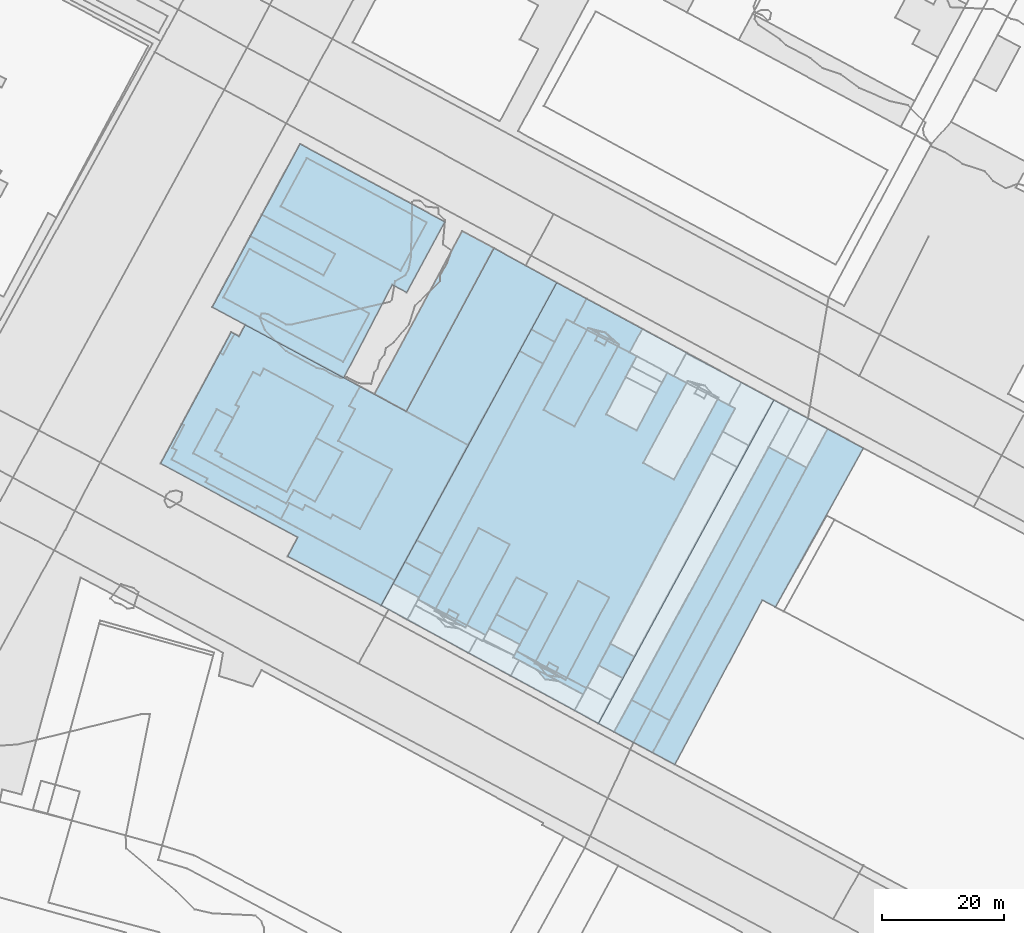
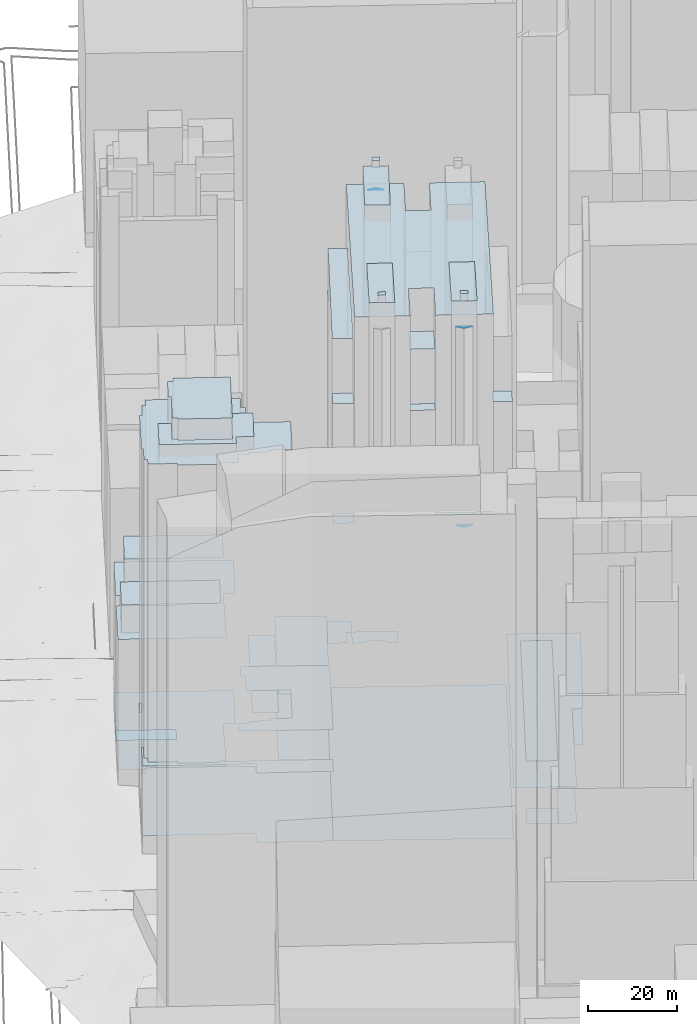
# Not in any storey, part 34 of 76: 39 roofs.
"""IFC2X3 model written with IfcOpenShell, lengths in metres."""

from ifc_helpers import new_model, si_unit, frame, origin_with_axes, place, context, subcontext, project, faceted_brep, element, save


model = new_model("IFC2X3")

# Units and contexts
model_context = context("Model", 3, precision=1e-05, world=origin_with_axes())
body_context = subcontext(model_context, "Body", "Model", "MODEL_VIEW")
ifc_project = project(units=[si_unit("AREAUNIT", "SQUARE_METRE"), si_unit("LENGTHUNIT", "METRE")], contexts=[model_context])

# Roofs
roof_1_placement = place(None, frame((117.977917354, 107.1295738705, 28.6103156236), z_axis=(0.0, 0.0, 1.0), x_axis=(1.0, 0.0, 0.0)))
element("IfcRoof", 1, at=roof_1_placement, Name="Toiture 0", ShapeType="NOTDEFINED", context=body_context, shape_type="Brep", body=[
    faceted_brep([(2.9022495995, 5.2295679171, 2.0), (0.0, 0.0, 2.0), (6.3201951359, -3.4126857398, 2.0), (9.1372634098, 1.8825086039, 2.0)], [[[0, 1, 2]], [[2, 3, 0]]]),
])
roof_2_placement = place(None, frame((106.7237532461, 117.4349641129, 171.8733820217), z_axis=(0.0, 0.0, 1.0), x_axis=(1.0, 0.0, 0.0)))
element("IfcRoof", 2, at=roof_2_placement, Name="Toiture 0", ShapeType="NOTDEFINED", context=body_context, shape_type="Brep", body=[
    faceted_brep([(0.5952053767, 1.0838316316, 2.0), (0.0, 0.0, 2.0), (1.5373911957, -0.8148118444, 2.0), (2.1242849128, 0.2578211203, 2.0)], [[[0, 1, 2]], [[2, 3, 0]]]),
])
roof_3_placement = place(None, frame((105.7639228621, 117.9456215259, 113.8537947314), z_axis=(0.0, 0.0, 1.0), x_axis=(1.0, 0.0, 0.0)))
element("IfcRoof", 3, at=roof_3_placement, Name="Toiture 0", ShapeType="NOTDEFINED", context=body_context, shape_type="Brep", body=[
    faceted_brep([(2.4972215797, -1.3254692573, 51.0), (0.0, 0.0, 51.0), (1.3516415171, -1.5386158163, 51.0), (3.4401714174, -1.8363224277, 51.0)], [[[0, 1, 2]], [[2, 3, 0]]]),
])
roof_4_placement = place(None, frame((101.4674692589, 119.3723193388, 20.7697572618), z_axis=(0.0, 0.0, 1.0), x_axis=(1.0, 0.0, 0.0)))
element("IfcRoof", 4, at=roof_4_placement, Name="Toiture 0", ShapeType="NOTDEFINED", context=body_context, shape_type="Brep", body=[
    faceted_brep([(0.5287138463, 0.9942409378, 93.0), (0.0, 0.0, 93.0), (11.4839478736, -6.1060781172, 93.0), (12.0459066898, -5.067041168, 93.0), (8.7673912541, -3.3398654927, 93.0), (8.5775159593, -3.7084452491, 93.0)], [[[0, 1, 2]], [[2, 3, 4]], [[5, 0, 2]], [[2, 4, 5]]]),
])
roof_5_placement = place(None, frame((105.4087196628, 117.2753608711, 40.8364053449), z_axis=(0.0, 0.0, 1.0), x_axis=(1.0, 0.0, 0.0)))
element("IfcRoof", 5, at=roof_5_placement, Name="Toiture 0", ShapeType="NOTDEFINED", context=body_context, shape_type="Brep", body=[
    faceted_brep([(3.4400426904, -1.825221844, 70.0), (0.0, 0.0, 70.0), (1.3598241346, -1.5163163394, 70.0)], [[[0, 1, 2]]]),
])
roof_6_placement = place(None, frame((104.948482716, 118.3802403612, 20.8364840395), z_axis=(0.0, 0.0, 1.0), x_axis=(1.0, 0.0, 0.0)))
element("IfcRoof", 6, at=roof_6_placement, Name="Toiture 0", ShapeType="NOTDEFINED", context=body_context, shape_type="Brep", body=[
    faceted_brep([(7.1619736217, 13.5058093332, 151.0), (0.0, 0.0, 151.0), (5.0965025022, -2.7163662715, 151.0), (12.2665233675, 10.8228483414, 151.0)], [[[0, 1, 2]], [[2, 3, 0]]]),
])
roof_7_placement = place(None, frame((115.4875749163, 118.0363623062, 20.7911243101), z_axis=(0.0, 0.0, 1.0), x_axis=(1.0, 0.0, 0.0)))
element("IfcRoof", 7, at=roof_7_placement, Name="Toiture 0", ShapeType="NOTDEFINED", context=body_context, shape_type="Brep", body=[
    faceted_brep([(1.8915978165, 3.5746936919, 120.0), (0.0, 0.0, 120.0), (3.8991819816, -2.1085420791, 120.0), (5.8246692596, 1.4554440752, 120.0)], [[[0, 1, 2]], [[2, 3, 0]]]),
])
roof_8_placement = place(None, frame((124.2981124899, 103.7168881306, 20.5602683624), z_axis=(0.0, 0.0, 1.0), x_axis=(1.0, 0.0, 0.0)))
element("IfcRoof", 8, at=roof_8_placement, Name="Toiture 0", ShapeType="NOTDEFINED", context=body_context, shape_type="Brep", body=[
    faceted_brep([(28.6922531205, 53.0912869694, 10.0), (0.0, 0.0, 10.0), (3.6522260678, -1.9226684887, 10.0), (18.0018064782, 25.0559943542, 10.0), (20.1510385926, 23.8930274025, 10.0), (34.5701681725, 49.9621498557, 10.0)], [[[0, 1, 2]], [[3, 4, 5]], [[0, 2, 3]], [[3, 5, 0]]]),
])
roof_9_placement = place(None, frame((115.4207049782, 108.532058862, 30.5602683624), z_axis=(0.0, 0.0, 1.0), x_axis=(1.0, 0.0, 0.0)))
element("IfcRoof", 9, at=roof_9_placement, Name="Toiture 0", ShapeType="NOTDEFINED", context=body_context, shape_type="Brep", body=[
    faceted_brep([(28.7687753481, 53.0477319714, 10.0), (0.0, 0.0, 10.0), (12.5296335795, -6.7378392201, 10.0), (26.8792139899, 20.2408236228, 10.0), (29.0284461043, 19.0778566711, 10.0), (43.4475756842, 45.1469791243, 10.0)], [[[0, 1, 2]], [[3, 4, 5]], [[0, 2, 3]], [[3, 5, 0]]]),
])
roof_10_placement = place(None, frame((120.8801669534, 112.3591417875, 40.6481645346), z_axis=(0.0, 0.0, 1.0), x_axis=(1.0, 0.0, 0.0)))
element("IfcRoof", 10, at=roof_10_placement, Name="Toiture 0", ShapeType="NOTDEFINED", context=body_context, shape_type="Brep", body=[
    faceted_brep([(22.4624654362, 41.461436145, 3.0), (0.0, 0.0, 3.0), (6.2350138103, -3.3470593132, 3.0), (28.6975847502, 38.1032951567, 3.0)], [[[0, 1, 2]], [[2, 3, 0]]]),
])
roof_11_placement = place(None, frame((98.7355611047, 126.3683150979, 140.9622219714), z_axis=(0.0, 0.0, 1.0), x_axis=(1.0, 0.0, 0.0)))
element("IfcRoof", 11, at=roof_11_placement, Name="Toiture 0", ShapeType="NOTDEFINED", context=body_context, shape_type="Brep", body=[
    faceted_brep([(3.2464387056, 6.1217379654, 15.0), (0.0, 0.0, 15.0), (5.0366380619, -2.6504521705, 15.0), (8.2830739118, 3.4712880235, 15.0)], [[[0, 1, 2]], [[2, 3, 0]]]),
])
roof_12_placement = place(None, frame((85.8586663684, 128.8500079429, 20.7906594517), z_axis=(0.0, 0.0, 1.0), x_axis=(1.0, 0.0, 0.0)))
element("IfcRoof", 12, at=roof_12_placement, Name="Toiture 0", ShapeType="NOTDEFINED", context=body_context, shape_type="Brep", body=[
    faceted_brep([(24.3521878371, 45.9352801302, 147.0), (0.0, 0.0, 147.0), (11.1010060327, -5.844095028, 147.0), (21.1599686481, 0.9895951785, 147.0), (16.1375167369, -8.4834476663, 147.0), (27.6547095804, -14.544729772, 147.0), (51.973663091, 31.3347461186, 147.0), (40.8642373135, 37.1786817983, 147.0), (30.8135250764, 30.3672629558, 147.0), (35.8607355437, 39.8850142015, 147.0), (16.1233334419, 3.6400451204, 147.0), (35.8417076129, 27.7167250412, 147.0)], [[[0, 1, 2]], [[3, 4, 5]], [[5, 6, 7]], [[8, 9, 0]], [[0, 2, 10]], [[5, 7, 11]], [[8, 0, 10]], [[3, 5, 11]], [[11, 8, 10]], [[10, 3, 11]]]),
])
roof_13_placement = place(None, frame((79.7834254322, 127.8912834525, 20.6975796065), z_axis=(0.0, 0.0, 1.0), x_axis=(1.0, 0.0, 0.0)))
element("IfcRoof", 13, at=roof_13_placement, Name="Toiture 0", ShapeType="NOTDEFINED", context=body_context, shape_type="Brep", body=[
    faceted_brep([(28.8041259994, 52.9258761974, 6.0), (0.0, 0.0, 6.0), (35.637279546, -19.3592245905, 6.0), (64.4060548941, 33.6885073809, 6.0)], [[[0, 1, 2]], [[2, 3, 0]]]),
])
roof_14_placement = place(None, frame((106.4243167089, 159.930902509, 21.4761548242), z_axis=(0.0, 0.0, 1.0), x_axis=(1.0, 0.0, 0.0)))
element("IfcRoof", 14, at=roof_14_placement, Name="Toiture 0", ShapeType="NOTDEFINED", context=body_context, shape_type="Brep", body=[
    faceted_brep([(7.2976187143, 13.4518772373, 151.0), (0.0, 0.0, 151.0), (5.0797232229, -2.7276618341, 151.0), (12.3774646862, 10.7131197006, 151.0)], [[[0, 1, 2]], [[2, 3, 0]]]),
])
roof_15_placement = place(None, frame((102.4881306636, 169.5885518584, 21.7443464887), z_axis=(0.0, 0.0, 1.0), x_axis=(1.0, 0.0, 0.0)))
element("IfcRoof", 15, at=roof_15_placement, Name="Toiture 0", ShapeType="NOTDEFINED", context=body_context, shape_type="Brep", body=[
    faceted_brep([(1.9256092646, 3.5528813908, 120.0), (0.0, 0.0, 120.0), (3.865132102, -2.0867392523, 120.0), (5.7567207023, 1.4879525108, 120.0)], [[[0, 1, 2]], [[2, 3, 0]]]),
])
roof_16_placement = place(None, frame((114.5459395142, 172.9371592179, 41.8919622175), z_axis=(0.0, 0.0, 1.0), x_axis=(1.0, 0.0, 0.0)))
element("IfcRoof", 16, at=roof_16_placement, Name="Toiture 0", ShapeType="NOTDEFINED", context=body_context, shape_type="Brep", body=[
    faceted_brep([(2.0464414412, -0.3092952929, 124.0), (0.0, 0.0, 124.0), (2.4804532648, -1.3367629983, 124.0), (3.4318372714, -1.8475169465, 124.0)], [[[0, 1, 2]], [[2, 3, 0]]]),
])
roof_17_placement = place(None, frame((114.9105640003, 171.3426705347, 172.8731858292), z_axis=(0.0, 0.0, 1.0), x_axis=(1.0, 0.0, 0.0)))
element("IfcRoof", 17, at=roof_17_placement, Name="Toiture 0", ShapeType="NOTDEFINED", context=body_context, shape_type="Brep", body=[
    faceted_brep([(0.5867591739, 1.0837344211, 2.0), (0.0, 0.0, 2.0), (1.529069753, -0.8260088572, 2.0), (2.1158287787, 0.2577256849, 2.0)], [[[0, 1, 2]], [[2, 3, 0]]]),
])
roof_18_placement = place(None, frame((111.3914170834, 174.1661728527, 21.831197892), z_axis=(0.0, 0.0, 1.0), x_axis=(1.0, 0.0, 0.0)))
element("IfcRoof", 18, at=roof_18_placement, Name="Toiture 0", ShapeType="NOTDEFINED", context=body_context, shape_type="Brep", body=[
    faceted_brep([(2.1061341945, 3.9990709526, 20.0), (0.0, 0.0, 20.0), (2.1403869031, -1.1297715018, 20.0), (7.4103643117, -3.5221506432, 20.0), (7.2449094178, -3.8127312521, 20.0), (9.1388508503, -4.8010344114, 20.0), (11.2550985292, -0.9461725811, 20.0), (2.3305183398, -0.7833931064, 20.0), (5.2009638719, -1.5383089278, 20.0)], [[[0, 1, 2]], [[3, 4, 5]], [[5, 6, 0]], [[0, 2, 7]], [[8, 3, 5]], [[0, 7, 8]], [[8, 5, 0]]]),
])
roof_19_placement = place(None, frame((104.4137399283, 173.1414332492, 21.8630474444), z_axis=(0.0, 0.0, 1.0), x_axis=(1.0, 0.0, 0.0)))
element("IfcRoof", 19, at=roof_19_placement, Name="Toiture 0", ShapeType="NOTDEFINED", context=body_context, shape_type="Brep", body=[
    faceted_brep([(4.1738115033, 7.6757264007, 23.0), (0.0, 0.0, 23.0), (3.8311114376, -2.06492888, 23.0), (5.7971142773, 1.6438548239, 23.0), (6.9776771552, 1.0247396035, 23.0), (9.0838113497, 5.0238105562, 23.0)], [[[0, 1, 2]], [[3, 4, 5]], [[0, 2, 3]], [[3, 5, 0]]]),
])
roof_20_placement = place(None, frame((78.7061684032, 162.506692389, 21.2045848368), z_axis=(0.0, 0.0, 1.0), x_axis=(1.0, 0.0, 0.0)))
element("IfcRoof", 20, at=roof_20_placement, Name="Toiture 0", ShapeType="NOTDEFINED", context=body_context, shape_type="Brep", body=[
    faceted_brep([(14.377530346, 26.7568479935, 20.0), (0.0, 0.0, 20.0), (5.2156594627, -2.803817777, 20.0), (19.5931770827, 23.953040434, 20.0)], [[[0, 1, 2]], [[2, 3, 0]]]),
])
roof_21_placement = place(None, frame((53.9063589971, 178.3836490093, 62.2466982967), z_axis=(0.0, 0.0, 1.0), x_axis=(1.0, 0.0, 0.0)))
element("IfcRoof", 21, at=roof_21_placement, Name="Toiture 0", ShapeType="NOTDEFINED", context=body_context, shape_type="Brep", body=[
    faceted_brep([(4.2973726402, 7.9435850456, 7.7000007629), (0.0, 0.0, 7.7000007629), (19.6563100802, -10.5631889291, 7.7000007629), (23.9622377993, -2.6305951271, 7.7000007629)], [[[0, 1, 2]], [[2, 3, 0]]]),
])
roof_22_placement = place(None, frame((52.1098467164, 176.7973780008, 20.2692366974), z_axis=(0.0, 0.0, 1.0), x_axis=(1.0, 0.0, 0.0)))
element("IfcRoof", 22, at=roof_22_placement, Name="Toiture 0", ShapeType="NOTDEFINED", context=body_context, shape_type="Brep", body=[
    faceted_brep([(14.3775952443, 26.7567958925, 6.0), (0.0, 0.0, 6.0), (21.5590744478, -11.5847130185, 6.0), (29.5109655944, 3.6843947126, 6.0), (31.872471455, 2.412853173, 6.0), (38.1367223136, 13.9875293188, 6.0)], [[[0, 1, 2]], [[3, 4, 5]], [[0, 2, 3]], [[3, 5, 0]]]),
])
roof_23_placement = place(None, frame((52.1098467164, 176.7973780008, 20.0588630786), z_axis=(0.0, 0.0, 1.0), x_axis=(1.0, 0.0, 0.0)))
element("IfcRoof", 23, at=roof_23_placement, Name="Toiture 0", ShapeType="NOTDEFINED", context=body_context, shape_type="Brep", body=[
    faceted_brep([(6.2211982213, 11.6518637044, 42.0), (0.0, 0.0, 42.0), (21.5590744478, -11.5847130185, 42.0), (29.5109655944, 3.6843947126, 42.0), (31.872471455, 2.412853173, 42.0), (38.1367223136, 13.9875293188, 42.0), (14.3775952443, 26.7567958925, 42.0), (8.1303289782, 15.1712352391, 42.0), (18.2324312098, 5.1965718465, 42.0), (20.1415581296, 8.715946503, 42.0)], [[[0, 1, 2]], [[3, 4, 5]], [[5, 6, 7]], [[8, 0, 2]], [[3, 5, 7]], [[9, 8, 2]], [[3, 7, 9]], [[9, 2, 3]]]),
])
roof_24_placement = place(None, frame((63.3141408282, 193.3143650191, 62.430841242), z_axis=(0.0, 0.0, 1.0), x_axis=(1.0, 0.0, 0.0)))
element("IfcRoof", 24, at=roof_24_placement, Name="Toiture 0", ShapeType="NOTDEFINED", context=body_context, shape_type="Brep", body=[
    faceted_brep([(4.2974822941, 7.9324902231, 7.7000007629), (0.0, 0.0, 7.7000007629), (19.6564142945, -10.5742645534, 7.7000007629), (23.9623227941, -2.6416648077, 7.7000007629)], [[[0, 1, 2]], [[2, 3, 0]]]),
])
roof_25_placement = place(None, frame((58.3310449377, 188.4492417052, 20.0588630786), z_axis=(0.0, 0.0, 1.0), x_axis=(1.0, 0.0, 0.0)))
element("IfcRoof", 25, at=roof_25_placement, Name="Toiture 0", ShapeType="NOTDEFINED", context=body_context, shape_type="Brep", body=[
    faceted_brep([(1.9091307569, 3.5193715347, 5.0), (0.0, 0.0, 5.0), (12.0112329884, -6.4552918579, 5.0), (13.9203599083, -2.9359172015, 5.0)], [[[0, 1, 2]], [[2, 3, 0]]]),
])
roof_26_placement = place(None, frame((53.3786072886, 169.3069851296, 21.038693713), z_axis=(0.0, 0.0, 1.0), x_axis=(1.0, 0.0, 0.0)))
element("IfcRoof", 26, at=roof_26_placement, Name="Toiture 0", ShapeType="NOTDEFINED", context=body_context, shape_type="Brep", body=[
    faceted_brep([(1.8261519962, 3.3962819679, 25.0), (0.0, 0.0, 25.0), (0.5353523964, -0.3046485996, 25.0), (2.3698157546, 3.1028322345, 25.0)], [[[0, 1, 2]], [[2, 3, 0]]]),
])
roof_27_placement = place(None, frame((48.9439736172, 152.8241808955, 21.1794819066), z_axis=(0.0, 0.0, 1.0), x_axis=(1.0, 0.0, 0.0)))
element("IfcRoof", 27, at=roof_27_placement, Name="Toiture 0", ShapeType="NOTDEFINED", context=body_context, shape_type="Brep", body=[
    faceted_brep([(16.539143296, -6.0030615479, 110.0), (20.031093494, -7.9387212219, 110.0), (24.5122266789, 0.1735393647, 110.0), (20.1715989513, 2.4990246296, 110.0), (15.3699209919, -6.3608053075, 110.0), (4.5649061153, -0.5576359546, 110.0), (4.788158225, -0.1553634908, 110.0), (3.6753780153, 0.4423431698, 110.0), (6.5761073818, 5.8050944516, 110.0), (3.9173823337, 7.2286264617, 110.0), (0.0, 0.0, 110.0), (15.3072963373, -8.2378124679, 110.0)], [[[0, 1, 2]], [[2, 3, 4]], [[5, 6, 7]], [[7, 8, 9]], [[0, 2, 4]], [[7, 9, 10]], [[11, 0, 4]], [[5, 7, 10]], [[10, 11, 4]], [[4, 5, 10]]]),
])
roof_28_placement = place(None, frame((52.6193516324, 153.2665240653, 20.9538410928), z_axis=(0.0, 0.0, 1.0), x_axis=(1.0, 0.0, 0.0)))
element("IfcRoof", 28, at=roof_28_placement, Name="Toiture 0", ShapeType="NOTDEFINED", context=body_context, shape_type="Brep", body=[
    faceted_brep([(3.8925728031, 7.1839315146, 116.0), (0.0, 0.0, 116.0), (1.1127802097, -0.5977066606, 116.0), (0.8895281, -0.9999791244, 116.0), (11.6945429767, -6.8031484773, 116.0), (19.3390148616, 7.3188466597, 116.0), (7.9393204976, 13.448168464, 116.0), (7.3113819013, 12.2751425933, 116.0), (6.1901626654, 12.8727503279, 116.0), (3.2894387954, 7.5099976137, 116.0)], [[[0, 1, 2]], [[2, 3, 4]], [[4, 5, 6]], [[7, 8, 9]], [[0, 2, 4]], [[4, 6, 7]], [[7, 9, 0]], [[0, 4, 7]]]),
])
roof_29_placement = place(None, frame((45.4357916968, 151.795361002, 20.6875388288), z_axis=(0.0, 0.0, 1.0), x_axis=(1.0, 0.0, 0.0)))
element("IfcRoof", 29, at=roof_29_placement, Name="Toiture 0", ShapeType="NOTDEFINED", context=body_context, shape_type="Brep", body=[
    faceted_brep([(0.8347003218, 1.5417986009, 107.0), (0.0, 0.0, 107.0), (5.9203309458, -3.1509334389, 107.0), (5.6146072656, -3.720696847, 107.0), (13.7856998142, -8.0556430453, 107.0), (14.0088230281, -7.6422696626, 107.0), (17.9245978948, -9.7284433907, 107.0), (19.3210010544, -7.125408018, 107.0), (21.4785274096, -8.2771984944, 107.0), (21.9247729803, -7.4504512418, 107.0), (26.0784283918, -9.6670859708, 107.0), (26.4255795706, -9.0302271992, 107.0), (30.9185296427, -11.3872491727, 107.0), (36.1572274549, -1.6341566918, 107.0), (27.3067714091, 3.0481492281, 107.0), (30.0995650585, 8.2542240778, 107.0), (29.1483116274, 8.7538826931, 107.0), (30.9087376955, 11.9939753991, 107.0), (12.0765422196, 22.100429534, 107.0), (11.0601529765, 20.2123506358, 107.0), (10.3126313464, 20.6144563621, 107.0), (8.4781679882, 17.206975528, 107.0), (7.9428155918, 17.5116241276, 107.0), (1.679905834, 5.8148724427, 107.0), (2.0700969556, 5.6528677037, 107.0), (0.1044447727, 1.9107990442, 107.0)], [[[0, 1, 2]], [[2, 3, 4]], [[5, 6, 7]], [[7, 8, 9]], [[9, 10, 11]], [[11, 12, 13]], [[14, 15, 16]], [[16, 17, 18]], [[19, 20, 21]], [[21, 22, 23]], [[24, 25, 0]], [[0, 2, 4]], [[9, 11, 13]], [[14, 16, 18]], [[19, 21, 23]], [[24, 0, 4]], [[7, 9, 13]], [[14, 18, 19]], [[19, 23, 24]], [[24, 4, 5]], [[5, 7, 13]], [[14, 19, 24]], [[24, 5, 13]], [[13, 14, 24]]]),
])
roof_30_placement = place(None, frame((43.6198790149, 151.1525582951, 20.6875388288), z_axis=(0.0, 0.0, 1.0), x_axis=(1.0, 0.0, 0.0)))
element("IfcRoof", 30, at=roof_30_placement, Name="Toiture 0", ShapeType="NOTDEFINED", context=body_context, shape_type="Brep", body=[
    faceted_brep([(11.5848802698, 21.5507088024, 6.0), (0.0, 0.0, 6.0), (22.5189582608, -12.0954008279, 6.0), (20.8331965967, -15.2236014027, 6.0), (36.1635464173, -23.2612748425, 6.0), (64.9676724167, 29.6646013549, 6.0), (54.679466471, 35.307174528, 6.0), (40.301948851, 8.550316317, 6.0), (13.8924549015, 22.7432322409, 6.0), (12.8760656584, 20.8551533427, 6.0)], [[[0, 1, 2]], [[2, 3, 4]], [[4, 5, 6]], [[7, 8, 9]], [[9, 0, 2]], [[4, 6, 7]], [[7, 9, 2]], [[2, 4, 7]]]),
])
roof_31_placement = place(None, frame((83.9218278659, 159.7028746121, 21.3185794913), z_axis=(0.0, 0.0, 1.0), x_axis=(1.0, 0.0, 0.0)))
element("IfcRoof", 31, at=roof_31_placement, Name="Toiture 0", ShapeType="NOTDEFINED", context=body_context, shape_type="Brep", body=[
    faceted_brep([(14.37751762, 26.756858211, 25.0), (0.0, 0.0, 25.0), (10.1183913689, -5.5557477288, 25.0), (24.6657235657, 21.1142850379, 25.0)], [[[0, 1, 2]], [[2, 3, 0]]]),
])
roof_32_placement = place(None, frame((85.6362783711, 138.5507919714, 21.0890233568), z_axis=(0.0, 0.0, 1.0), x_axis=(1.0, 0.0, 0.0)))
element("IfcRoof", 32, at=roof_32_placement, Name="Toiture 0", ShapeType="NOTDEFINED", context=body_context, shape_type="Brep", body=[
    faceted_brep([(16.8518522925, 31.0377598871, 135.0), (0.0, 0.0, 135.0), (4.1792434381, -2.2385320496, 135.0), (20.7169843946, 28.9510206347, 135.0)], [[[0, 1, 2]], [[2, 3, 0]]]),
])
roof_33_placement = place(None, frame((63.3603895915, 142.0669176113, 21.031144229), z_axis=(0.0, 0.0, 1.0), x_axis=(1.0, 0.0, 0.0)))
element("IfcRoof", 33, at=roof_33_placement, Name="Toiture 0", ShapeType="NOTDEFINED", context=body_context, shape_type="Brep", body=[
    faceted_brep([(1.3964031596, 2.6030353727, 33.0), (0.0, 0.0, 33.0), (18.6972361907, -10.1080082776, 33.0), (30.6798296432, 12.080209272, 33.0), (12.9841398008, 21.7224187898, 33.0), (11.2237137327, 18.4823260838, 33.0), (12.1749671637, 17.9826674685, 33.0), (9.3821735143, 12.7765926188, 33.0), (18.2326295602, 8.0942866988, 33.0), (12.993931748, -1.658805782, 33.0), (8.5009816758, 0.6982161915, 33.0), (8.1538304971, 0.0613574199, 33.0), (4.0001750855, 2.2779921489, 33.0), (3.5539295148, 1.4512448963, 33.0)], [[[0, 1, 2]], [[3, 4, 5]], [[6, 7, 8]], [[9, 10, 11]], [[11, 12, 13]], [[13, 0, 2]], [[3, 5, 6]], [[9, 11, 13]], [[3, 6, 8]], [[9, 13, 2]], [[2, 3, 8]], [[8, 9, 2]]]),
])
roof_34_placement = place(None, frame((88.5482734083, 126.9494492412, 20.9399890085), z_axis=(0.0, 0.0, 1.0), x_axis=(1.0, 0.0, 0.0)))
element("IfcRoof", 34, at=roof_34_placement, Name="Toiture 0", ShapeType="NOTDEFINED", context=body_context, shape_type="Brep", body=[
    faceted_brep([(7.2282283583, 13.617585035, 151.0), (0.0, 0.0, 151.0), (5.0963614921, -2.7052766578, 151.0), (12.3328949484, 10.9235121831, 151.0)], [[[0, 1, 2]], [[2, 3, 0]]]),
])
roof_35_placement = place(None, frame((90.3149703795, 126.0151718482, 171.9493104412), z_axis=(0.0, 0.0, 1.0), x_axis=(1.0, 0.0, 0.0)))
element("IfcRoof", 35, at=roof_35_placement, Name="Toiture 0", ShapeType="NOTDEFINED", context=body_context, shape_type="Brep", body=[
    faceted_brep([(0.6615702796, 1.1845212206, 2.0), (0.0, 0.0, 2.0), (1.5289471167, -0.8149132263, 2.0), (2.1906461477, 0.358507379, 2.0)], [[[0, 1, 2]], [[2, 3, 0]]]),
])
roof_36_placement = place(None, frame((83.7106505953, 134.9979159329, 21.0569415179), z_axis=(0.0, 0.0, 1.0), x_axis=(1.0, 0.0, 0.0)))
element("IfcRoof", 36, at=roof_36_placement, Name="Toiture 0", ShapeType="NOTDEFINED", context=body_context, shape_type="Brep", body=[
    faceted_brep([(1.9256277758, 3.5528760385, 120.0), (0.0, 0.0, 120.0), (4.2049527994, -2.2715413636, 120.0), (6.1048712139, 1.3143439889, 120.0)], [[[0, 1, 2]], [[2, 3, 0]]]),
])
roof_37_placement = place(None, frame((81.7767093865, 131.433841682, 21.0074778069), z_axis=(0.0, 0.0, 1.0), x_axis=(1.0, 0.0, 0.0)))
element("IfcRoof", 37, at=roof_37_placement, Name="Toiture 0", ShapeType="NOTDEFINED", context=body_context, shape_type="Brep", body=[
    faceted_brep([(1.9339412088, 3.5640742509, 90.0), (0.0, 0.0, 90.0), (4.2388447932, -2.2822511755, 90.0), (6.1388940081, 1.2925328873, 90.0)], [[[0, 1, 2]], [[2, 3, 0]]]),
])
roof_38_placement = place(None, frame((43.6198790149, 151.1525582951, 20.8515693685), z_axis=(0.0, 0.0, 1.0), x_axis=(1.0, 0.0, 0.0)))
element("IfcRoof", 38, at=roof_38_placement, Name="Toiture 0", ShapeType="NOTDEFINED", context=body_context, shape_type="Brep", body=[
    faceted_brep([(22.5189582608, -12.0954008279, 25.0), (20.8331965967, -15.2236014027, 25.0), (36.1635464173, -23.2612748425, 25.0), (38.4377467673, -19.1936489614, 25.0), (15.8247357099, -6.9994669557, 25.0), (15.6016124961, -7.4128403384, 25.0), (7.4305199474, -3.07789414, 25.0), (7.7362436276, -2.508130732, 25.0), (1.8159126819, 0.6428027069, 25.0), (2.6506130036, 2.1846013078, 25.0), (1.9203574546, 2.5536017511, 25.0), (3.8860096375, 6.2956704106, 25.0), (3.4958185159, 6.4576751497, 25.0), (0.0, 0.0, 25.0)], [[[0, 1, 2]], [[3, 4, 5]], [[6, 7, 8]], [[8, 9, 10]], [[10, 11, 12]], [[0, 2, 3]], [[10, 12, 13]], [[13, 0, 3]], [[8, 10, 13]], [[13, 3, 5]], [[6, 8, 13]], [[13, 5, 6]]]),
])
roof_39_placement = place(None, frame((97.5295573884, 124.0894496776, 110.9435975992), z_axis=(0.0, 0.0, 1.0), x_axis=(1.0, 0.0, 0.0)))
element("IfcRoof", 39, at=roof_39_placement, Name="Toiture 0", ShapeType="NOTDEFINED", context=body_context, shape_type="Brep", body=[
    faceted_brep([(1.2060037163, 2.2788654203, 30.0), (0.0, 0.0, 30.0), (5.0366391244, -2.6504529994, 30.0), (6.2426417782, -0.3715867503, 30.0)], [[[0, 1, 2]], [[2, 3, 0]]]),
])

save(model, "model.ifc")
